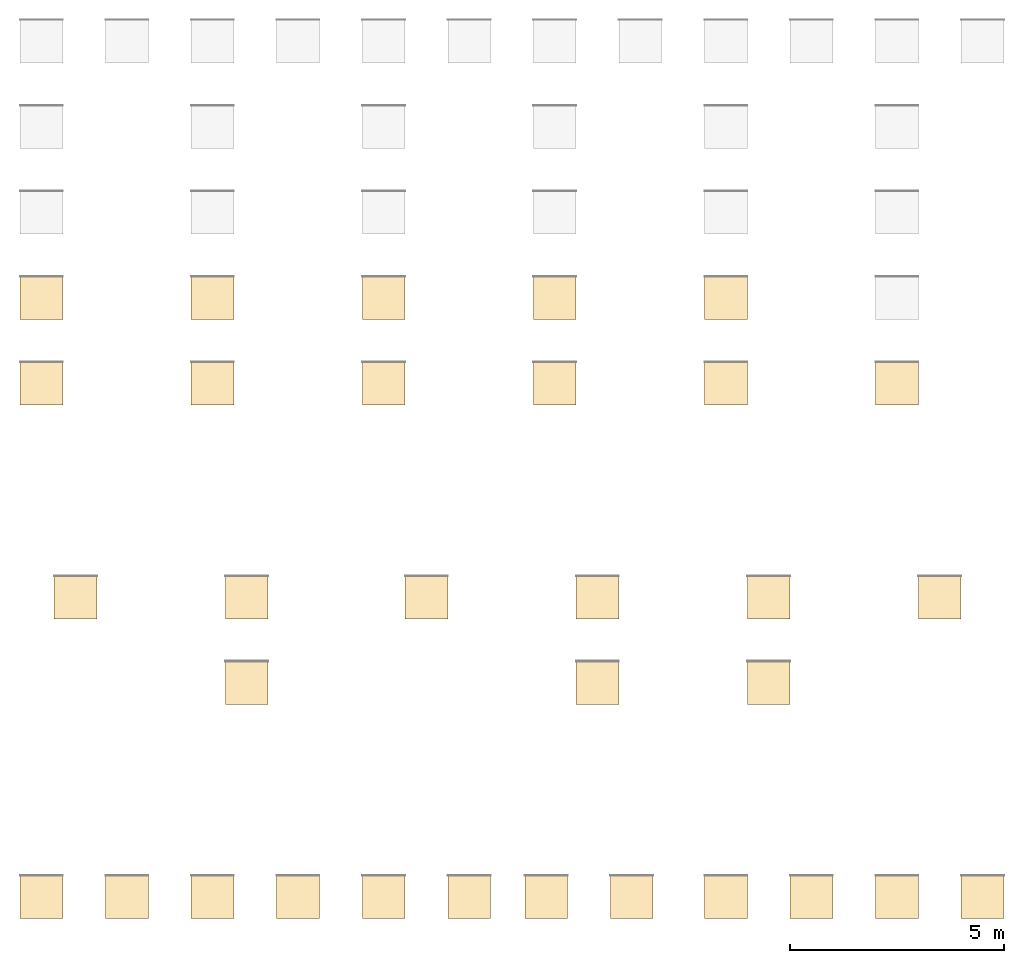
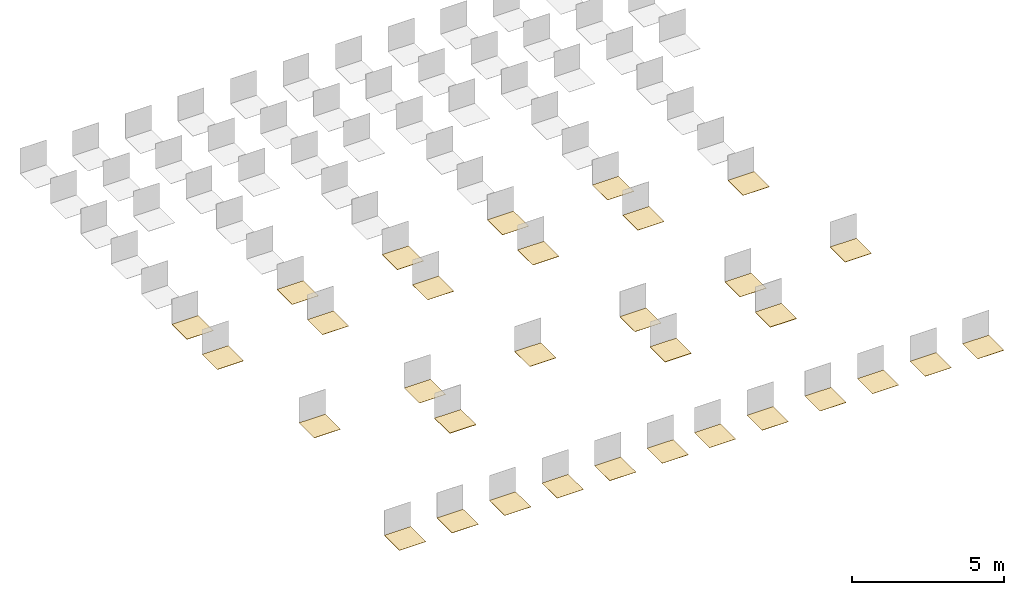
# One storey, part 4 of 6: 32 coverings.
"""IFC2X3 building model written with IfcOpenShell, lengths in millimetres."""

from ifc_helpers import new_model, entity, si_unit, converted_unit, derived_unit, direction, frame, frame_2d, origin, origin_2d_with_axis, place, context, subcontext, project, spatial, rectangle, extrude, material, layer, layer_set, layer_usage, type_object, element, save


model = new_model("IFC2X3")

# Units and contexts
model_context = context("Model", 3, precision=0.01, world=origin(), true_north=direction((6.12303176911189e-17, 1.0)))
body_context = subcontext(model_context, "Body", "Model", "MODEL_VIEW")
ifc_project = project(units=[si_unit("LENGTHUNIT", "METRE", prefix="MILLI"), si_unit("AREAUNIT", "SQUARE_METRE"), si_unit("VOLUMEUNIT", "CUBIC_METRE"), converted_unit("PLANEANGLEUNIT", "DEGREE", entity("IfcRatioMeasure", 0.0174532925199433), si_unit("PLANEANGLEUNIT", "RADIAN"), dimensions=[0, 0, 0, 0, 0, 0, 0]), si_unit("MASSUNIT", "GRAM", prefix="KILO"), derived_unit("MASSDENSITYUNIT", [(si_unit("MASSUNIT", "GRAM", prefix="KILO"), 1), (si_unit("LENGTHUNIT", "METRE"), -3)]), derived_unit("MOMENTOFINERTIAUNIT", [(si_unit("LENGTHUNIT", "METRE"), 4)]), si_unit("TIMEUNIT", "SECOND"), si_unit("FREQUENCYUNIT", "HERTZ"), si_unit("THERMODYNAMICTEMPERATUREUNIT", "DEGREE_CELSIUS"), derived_unit("THERMALTRANSMITTANCEUNIT", [(si_unit("MASSUNIT", "GRAM", prefix="KILO"), 1), (si_unit("THERMODYNAMICTEMPERATUREUNIT", "KELVIN"), -1), (si_unit("TIMEUNIT", "SECOND"), -3)]), derived_unit("VOLUMETRICFLOWRATEUNIT", [(si_unit("LENGTHUNIT", "METRE"), 3), (si_unit("TIMEUNIT", "SECOND"), -1)]), si_unit("ELECTRICCURRENTUNIT", "AMPERE"), si_unit("ELECTRICVOLTAGEUNIT", "VOLT"), si_unit("POWERUNIT", "WATT"), si_unit("FORCEUNIT", "NEWTON", prefix="KILO"), si_unit("ILLUMINANCEUNIT", "LUX"), si_unit("LUMINOUSFLUXUNIT", "LUMEN"), si_unit("LUMINOUSINTENSITYUNIT", "CANDELA"), derived_unit("USERDEFINED", [(si_unit("MASSUNIT", "GRAM", prefix="KILO"), -1), (si_unit("LENGTHUNIT", "METRE"), -2), (si_unit("TIMEUNIT", "SECOND"), 3), (si_unit("LUMINOUSFLUXUNIT", "LUMEN"), 1)]), derived_unit("LINEARVELOCITYUNIT", [(si_unit("LENGTHUNIT", "METRE"), 1), (si_unit("TIMEUNIT", "SECOND"), -1)]), si_unit("PRESSUREUNIT", "PASCAL"), derived_unit("USERDEFINED", [(si_unit("LENGTHUNIT", "METRE"), -2), (si_unit("MASSUNIT", "GRAM", prefix="KILO"), 1), (si_unit("TIMEUNIT", "SECOND"), -2)]), derived_unit("LINEARFORCEUNIT", [(si_unit("MASSUNIT", "GRAM", prefix="KILO"), 1), (si_unit("LENGTHUNIT", "METRE"), 1), (si_unit("TIMEUNIT", "SECOND"), -2), (si_unit("LENGTHUNIT", "METRE"), -1)]), derived_unit("PLANARFORCEUNIT", [(si_unit("MASSUNIT", "GRAM", prefix="KILO"), 1), (si_unit("LENGTHUNIT", "METRE"), 1), (si_unit("TIMEUNIT", "SECOND"), -2), (si_unit("LENGTHUNIT", "METRE"), -2)])], contexts=[model_context])

# Site, building, storey
site_placement = place(None, origin())
site = spatial("IfcSite", under=ifc_project, at=site_placement, Name="Default", CompositionType="ELEMENT")
building_placement = place(site_placement, origin())
building = spatial("IfcBuilding", under=site, at=building_placement, CompositionType="ELEMENT")
storey_placement = place(building_placement, origin())
storey = spatial("IfcBuildingStorey", under=building, at=storey_placement, Name="Level 1", CompositionType="ELEMENT", Elevation=0.0)

# Coverings
ifc_material_1 = material(Name="REVIGRÉS-URBAN-BASE-60X120-RECT-ANTRACITE")
ifc_layer_1 = layer(ifc_material_1, 9.8)
ifc_layer_set_1 = layer_set([ifc_layer_1], Name="Floor:REVIGRÉS-URBAN-BASE-59,2X118,6-RECT-ANTRACITE")
ifc_layer_usage_1 = layer_usage(ifc_layer_set_1, "AXIS3", "POSITIVE", 0.0)
covering_type_1 = type_object("IfcCoveringType", Name="Floor:REVIGRÉS-URBAN-BASE-59,2X118,6-RECT-ANTRACITE", PredefinedType="CLADDING", material=ifc_layer_set_1)
covering_1_placement = place(storey_placement, origin())
element("IfcCovering", 1, at=covering_1_placement, inside=storey, type_object=covering_type_1, material=ifc_layer_usage_1, Name="Floor:REVIGRÉS-URBAN-BASE-59,2X118,6-RECT-ANTRACITE", ObjectType="Floor:REVIGRÉS-URBAN-BASE-59,2X118,6-RECT-ANTRACITE", PredefinedType="CLADDING", context=body_context, shape_type="SweptSolid", body=[
    extrude(rectangle(XDim=1000.0, YDim=1000.0, at=frame_2d((1.08002495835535e-12, 0.0), x_axis=(1.0, 0.0))), frame((3278.64271399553, -11691.9242026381, 0.0), z_axis=(0.0, 0.0, -1.0), x_axis=(0.0, 1.0, 0.0)), (0.0, 0.0, 1.0), 9.8),
])
ifc_material_2 = material(Name="REVIGRÉS-URBAN-BASE-60X120-RECT-BONE")
ifc_layer_2 = layer(ifc_material_2, 9.8)
ifc_layer_set_2 = layer_set([ifc_layer_2], Name="Floor:REVIGRÉS-URBAN-BASE-59,2X118,6-RECT-BONE")
ifc_layer_usage_2 = layer_usage(ifc_layer_set_2, "AXIS3", "POSITIVE", 0.0)
covering_type_2 = type_object("IfcCoveringType", Name="Floor:REVIGRÉS-URBAN-BASE-59,2X118,6-RECT-BONE", PredefinedType="CLADDING", material=ifc_layer_set_2)
covering_2_placement = place(storey_placement, origin())
element("IfcCovering", 2, at=covering_2_placement, inside=storey, type_object=covering_type_2, material=ifc_layer_usage_2, Name="Floor:REVIGRÉS-URBAN-BASE-59,2X118,6-RECT-BONE", ObjectType="Floor:REVIGRÉS-URBAN-BASE-59,2X118,6-RECT-BONE", PredefinedType="CLADDING", context=body_context, shape_type="SweptSolid", body=[
    extrude(rectangle(XDim=1000.0, YDim=1000.0, at=frame_2d((1.08002495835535e-12, -1.08002495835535e-12), x_axis=(1.0, 0.0))), frame((7278.64271399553, -11691.9242026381, 0.0), z_axis=(0.0, 0.0, -1.0), x_axis=(0.0, 1.0, 0.0)), (0.0, 0.0, 1.0), 9.8),
])
ifc_material_3 = material(Name="REVIGRÉS-URBAN-BASE-60X120-RECT-CRAFT")
ifc_layer_3 = layer(ifc_material_3, 9.8)
ifc_layer_set_3 = layer_set([ifc_layer_3], Name="Floor:REVIGRÉS-URBAN-BASE-59,2X118,6-RECT-CRAFT")
ifc_layer_usage_3 = layer_usage(ifc_layer_set_3, "AXIS3", "POSITIVE", 0.0)
covering_type_3 = type_object("IfcCoveringType", Name="Floor:REVIGRÉS-URBAN-BASE-59,2X118,6-RECT-CRAFT", PredefinedType="CLADDING", material=ifc_layer_set_3)
covering_3_placement = place(storey_placement, origin())
element("IfcCovering", 3, at=covering_3_placement, inside=storey, type_object=covering_type_3, material=ifc_layer_usage_3, Name="Floor:REVIGRÉS-URBAN-BASE-59,2X118,6-RECT-CRAFT", ObjectType="Floor:REVIGRÉS-URBAN-BASE-59,2X118,6-RECT-CRAFT", PredefinedType="CLADDING", context=body_context, shape_type="SweptSolid", body=[
    extrude(rectangle(XDim=1000.0, YDim=999.999999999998, at=frame_2d((1.08002495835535e-12, 0.0), x_axis=(1.0, 0.0))), frame((11278.6427139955, -11691.9242026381, 0.0), z_axis=(0.0, 0.0, -1.0), x_axis=(0.0, 1.0, 0.0)), (0.0, 0.0, 1.0), 9.8),
])
ifc_material_4 = material(Name="REVIGRÉS-URBAN-BASE-60X120-RECT-FOG")
ifc_layer_4 = layer(ifc_material_4, 9.8)
ifc_layer_set_4 = layer_set([ifc_layer_4], Name="Floor:REVIGRÉS-URBAN-BASE-59,2X118,6-RECT-FOG")
ifc_layer_usage_4 = layer_usage(ifc_layer_set_4, "AXIS3", "POSITIVE", 0.0)
covering_type_4 = type_object("IfcCoveringType", Name="Floor:REVIGRÉS-URBAN-BASE-59,2X118,6-RECT-FOG", PredefinedType="CLADDING", material=ifc_layer_set_4)
covering_4_placement = place(storey_placement, origin())
element("IfcCovering", 4, at=covering_4_placement, inside=storey, type_object=covering_type_4, material=ifc_layer_usage_4, Name="Floor:REVIGRÉS-URBAN-BASE-59,2X118,6-RECT-FOG", ObjectType="Floor:REVIGRÉS-URBAN-BASE-59,2X118,6-RECT-FOG", PredefinedType="CLADDING", context=body_context, shape_type="SweptSolid", body=[
    extrude(rectangle(XDim=1000.0, YDim=1000.0, at=frame_2d((1.08002495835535e-12, -1.08002495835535e-12), x_axis=(1.0, 0.0))), frame((15278.6427139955, -11691.9242026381, 0.0), z_axis=(0.0, 0.0, -1.0), x_axis=(0.0, 1.0, 0.0)), (0.0, 0.0, 1.0), 9.8),
])
ifc_material_5 = material(Name="REVIGRÉS-URBAN-BASE-60X120-RECT-GRIS")
ifc_layer_5 = layer(ifc_material_5, 9.8)
ifc_layer_set_5 = layer_set([ifc_layer_5], Name="Floor:REVIGRÉS-URBAN-BASE-59,2X118,6-RECT-GRIS")
ifc_layer_usage_5 = layer_usage(ifc_layer_set_5, "AXIS3", "POSITIVE", 0.0)
covering_type_5 = type_object("IfcCoveringType", Name="Floor:REVIGRÉS-URBAN-BASE-59,2X118,6-RECT-GRIS", PredefinedType="CLADDING", material=ifc_layer_set_5)
covering_5_placement = place(storey_placement, origin())
element("IfcCovering", 5, at=covering_5_placement, inside=storey, type_object=covering_type_5, material=ifc_layer_usage_5, Name="Floor:REVIGRÉS-URBAN-BASE-59,2X118,6-RECT-GRIS", ObjectType="Floor:REVIGRÉS-URBAN-BASE-59,2X118,6-RECT-GRIS", PredefinedType="CLADDING", context=body_context, shape_type="SweptSolid", body=[
    extrude(rectangle(XDim=1000.0, YDim=1000.0, at=frame_2d((1.08002495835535e-12, -1.08002495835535e-12), x_axis=(1.0, 0.0))), frame((19278.6427139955, -11691.9242026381, 0.0), z_axis=(0.0, 0.0, -1.0), x_axis=(0.0, 1.0, 0.0)), (0.0, 0.0, 1.0), 9.8),
])
ifc_material_6 = material(Name="REVIGRÉS-URBAN-BASE-90X90-RECT-ANTRACITE")
ifc_layer_6 = layer(ifc_material_6, 10.5)
ifc_layer_set_6 = layer_set([ifc_layer_6], Name="Floor:REVIGRÉS-URBAN-BASE-88,9X88,9-RECT-ANTRACITE")
ifc_layer_usage_6 = layer_usage(ifc_layer_set_6, "AXIS3", "POSITIVE", 0.0)
covering_type_6 = type_object("IfcCoveringType", Name="Floor:REVIGRÉS-URBAN-BASE-88,9X88,9-RECT-ANTRACITE", PredefinedType="CLADDING", material=ifc_layer_set_6)
covering_6_placement = place(storey_placement, origin())
element("IfcCovering", 6, at=covering_6_placement, inside=storey, type_object=covering_type_6, material=ifc_layer_usage_6, Name="Floor:REVIGRÉS-URBAN-BASE-88,9X88,9-RECT-ANTRACITE", ObjectType="Floor:REVIGRÉS-URBAN-BASE-88,9X88,9-RECT-ANTRACITE", PredefinedType="CLADDING", context=body_context, shape_type="SweptSolid", body=[
    extrude(rectangle(XDim=1000.0, YDim=1000.0, at=frame_2d((1.08002495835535e-12, 0.0), x_axis=(1.0, 0.0))), frame((3278.64271399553, -13691.9242026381, 0.0), z_axis=(0.0, 0.0, -1.0), x_axis=(0.0, 1.0, 0.0)), (0.0, 0.0, 1.0), 10.5),
])
ifc_material_7 = material(Name="REVIGRÉS-URBAN-BASE-90X90-RECT-BONE")
ifc_layer_7 = layer(ifc_material_7, 10.5)
ifc_layer_set_7 = layer_set([ifc_layer_7], Name="Floor:REVIGRÉS-URBAN-BASE-88,9X88,9-RECT-BONE")
ifc_layer_usage_7 = layer_usage(ifc_layer_set_7, "AXIS3", "POSITIVE", 0.0)
covering_type_7 = type_object("IfcCoveringType", Name="Floor:REVIGRÉS-URBAN-BASE-88,9X88,9-RECT-BONE", PredefinedType="CLADDING", material=ifc_layer_set_7)
covering_7_placement = place(storey_placement, origin())
element("IfcCovering", 7, at=covering_7_placement, inside=storey, type_object=covering_type_7, material=ifc_layer_usage_7, Name="Floor:REVIGRÉS-URBAN-BASE-88,9X88,9-RECT-BONE", ObjectType="Floor:REVIGRÉS-URBAN-BASE-88,9X88,9-RECT-BONE", PredefinedType="CLADDING", context=body_context, shape_type="SweptSolid", body=[
    extrude(rectangle(XDim=1000.0, YDim=1000.0, at=frame_2d((1.08002495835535e-12, -1.08002495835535e-12), x_axis=(1.0, 0.0))), frame((7278.64271399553, -13691.9242026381, 0.0), z_axis=(0.0, 0.0, -1.0), x_axis=(0.0, 1.0, 0.0)), (0.0, 0.0, 1.0), 10.5),
])
ifc_material_8 = material(Name="REVIGRÉS-URBAN-BASE-90X90-RECT-CRAFT")
ifc_layer_8 = layer(ifc_material_8, 10.5)
ifc_layer_set_8 = layer_set([ifc_layer_8], Name="Floor:REVIGRÉS-URBAN-BASE-88,9X88,9-RECT-CRAFT")
ifc_layer_usage_8 = layer_usage(ifc_layer_set_8, "AXIS3", "POSITIVE", 0.0)
covering_type_8 = type_object("IfcCoveringType", Name="Floor:REVIGRÉS-URBAN-BASE-88,9X88,9-RECT-CRAFT", PredefinedType="CLADDING", material=ifc_layer_set_8)
covering_8_placement = place(storey_placement, origin())
element("IfcCovering", 8, at=covering_8_placement, inside=storey, type_object=covering_type_8, material=ifc_layer_usage_8, Name="Floor:REVIGRÉS-URBAN-BASE-88,9X88,9-RECT-CRAFT", ObjectType="Floor:REVIGRÉS-URBAN-BASE-88,9X88,9-RECT-CRAFT", PredefinedType="CLADDING", context=body_context, shape_type="SweptSolid", body=[
    extrude(rectangle(XDim=1000.0, YDim=999.999999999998, at=frame_2d((1.08002495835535e-12, 0.0), x_axis=(1.0, 0.0))), frame((11278.6427139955, -13691.9242026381, 0.0), z_axis=(0.0, 0.0, -1.0), x_axis=(0.0, 1.0, 0.0)), (0.0, 0.0, 1.0), 10.5),
])
ifc_material_9 = material(Name="REVIGRÉS-URBAN-BASE-90X90-RECT-FOG")
ifc_layer_9 = layer(ifc_material_9, 10.5)
ifc_layer_set_9 = layer_set([ifc_layer_9], Name="Floor:REVIGRÉS-URBAN-BASE-88,9X88,9-RECT-FOG")
ifc_layer_usage_9 = layer_usage(ifc_layer_set_9, "AXIS3", "POSITIVE", 0.0)
covering_type_9 = type_object("IfcCoveringType", Name="Floor:REVIGRÉS-URBAN-BASE-88,9X88,9-RECT-FOG", PredefinedType="CLADDING", material=ifc_layer_set_9)
covering_9_placement = place(storey_placement, origin())
element("IfcCovering", 9, at=covering_9_placement, inside=storey, type_object=covering_type_9, material=ifc_layer_usage_9, Name="Floor:REVIGRÉS-URBAN-BASE-88,9X88,9-RECT-FOG", ObjectType="Floor:REVIGRÉS-URBAN-BASE-88,9X88,9-RECT-FOG", PredefinedType="CLADDING", context=body_context, shape_type="SweptSolid", body=[
    extrude(rectangle(XDim=1000.0, YDim=1000.0, at=frame_2d((1.08002495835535e-12, -1.08002495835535e-12), x_axis=(1.0, 0.0))), frame((15278.6427139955, -13691.9242026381, 0.0), z_axis=(0.0, 0.0, -1.0), x_axis=(0.0, 1.0, 0.0)), (0.0, 0.0, 1.0), 10.5),
])
ifc_material_10 = material(Name="REVIGRÉS-URBAN-BASE-90X90-RECT-GRIS")
ifc_layer_10 = layer(ifc_material_10, 10.5)
ifc_layer_set_10 = layer_set([ifc_layer_10], Name="Floor:REVIGRÉS-URBAN-BASE-88,9X88,9-RECT-GRIS")
ifc_layer_usage_10 = layer_usage(ifc_layer_set_10, "AXIS3", "POSITIVE", 0.0)
covering_type_10 = type_object("IfcCoveringType", Name="Floor:REVIGRÉS-URBAN-BASE-88,9X88,9-RECT-GRIS", PredefinedType="CLADDING", material=ifc_layer_set_10)
covering_10_placement = place(storey_placement, origin())
element("IfcCovering", 10, at=covering_10_placement, inside=storey, type_object=covering_type_10, material=ifc_layer_usage_10, Name="Floor:REVIGRÉS-URBAN-BASE-88,9X88,9-RECT-GRIS", ObjectType="Floor:REVIGRÉS-URBAN-BASE-88,9X88,9-RECT-GRIS", PredefinedType="CLADDING", context=body_context, shape_type="SweptSolid", body=[
    extrude(rectangle(XDim=1000.0, YDim=1000.0, at=frame_2d((1.08002495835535e-12, -1.08002495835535e-12), x_axis=(1.0, 0.0))), frame((19278.6427139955, -13691.9242026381, 0.0), z_axis=(0.0, 0.0, -1.0), x_axis=(0.0, 1.0, 0.0)), (0.0, 0.0, 1.0), 10.5),
])
ifc_material_11 = material(Name="REVIGRÉS-URBAN-BASE-90X90-RECT-OFFWHITE")
ifc_layer_11 = layer(ifc_material_11, 10.5)
ifc_layer_set_11 = layer_set([ifc_layer_11], Name="Floor:REVIGRÉS-URBAN-BASE-88,9X88,9-RECT-OFFWHITE")
ifc_layer_usage_11 = layer_usage(ifc_layer_set_11, "AXIS3", "POSITIVE", 0.0)
covering_type_11 = type_object("IfcCoveringType", Name="Floor:REVIGRÉS-URBAN-BASE-88,9X88,9-RECT-OFFWHITE", PredefinedType="CLADDING", material=ifc_layer_set_11)
covering_11_placement = place(storey_placement, origin())
element("IfcCovering", 11, at=covering_11_placement, inside=storey, type_object=covering_type_11, material=ifc_layer_usage_11, Name="Floor:REVIGRÉS-URBAN-BASE-88,9X88,9-RECT-OFFWHITE", ObjectType="Floor:REVIGRÉS-URBAN-BASE-88,9X88,9-RECT-OFFWHITE", PredefinedType="CLADDING", context=body_context, shape_type="SweptSolid", body=[
    extrude(rectangle(XDim=1000.0, YDim=1000.0, at=frame_2d((1.08002495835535e-12, 2.1600499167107e-12), x_axis=(1.0, 0.0))), frame((23278.6427139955, -13691.9242026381, 0.0), z_axis=(0.0, 0.0, -1.0), x_axis=(0.0, 1.0, 0.0)), (0.0, 0.0, 1.0), 10.5),
])
ifc_material_12 = material(Name="REVIGRÉS-URBAN-BASE-60X60-RECT-ANTISLIP ANTRACITE")
ifc_layer_12 = layer(ifc_material_12, 10.5)
ifc_layer_set_12 = layer_set([ifc_layer_12], Name="Floor:REVIGRÉS-URBAN-BASE-59,2X59,2-RECT-ANTISLIP ANTRACITE")
ifc_layer_usage_12 = layer_usage(ifc_layer_set_12, "AXIS3", "POSITIVE", 0.0)
covering_type_12 = type_object("IfcCoveringType", Name="Floor:REVIGRÉS-URBAN-BASE-59,2X59,2-RECT-ANTISLIP ANTRACITE", PredefinedType="CLADDING", material=ifc_layer_set_12)
covering_12_placement = place(storey_placement, origin())
element("IfcCovering", 12, at=covering_12_placement, inside=storey, type_object=covering_type_12, material=ifc_layer_usage_12, Name="Floor:REVIGRÉS-URBAN-BASE-59,2X59,2-RECT-ANTISLIP ANTRACITE", ObjectType="Floor:REVIGRÉS-URBAN-BASE-59,2X59,2-RECT-ANTISLIP ANTRACITE", PredefinedType="CLADDING", context=body_context, shape_type="SweptSolid", body=[
    extrude(rectangle(XDim=1000.0, YDim=1000.0, at=frame_2d((1.08002495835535e-12, 0.0), x_axis=(1.0, 0.0))), frame((4078.64271399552, -18691.9242026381, 0.0), z_axis=(0.0, 0.0, -1.0), x_axis=(0.0, 1.0, 0.0)), (0.0, 0.0, 1.0), 10.5),
])
ifc_material_13 = material(Name="REVIGRÉS-URBAN-BASE-60X60-RECT-ANTISLIP BONE")
ifc_layer_13 = layer(ifc_material_13, 10.5)
ifc_layer_set_13 = layer_set([ifc_layer_13], Name="Floor:REVIGRÉS-URBAN-BASE-59,2X59,2-RECT-ANTISLIP BONE")
ifc_layer_usage_13 = layer_usage(ifc_layer_set_13, "AXIS3", "POSITIVE", 0.0)
covering_type_13 = type_object("IfcCoveringType", Name="Floor:REVIGRÉS-URBAN-BASE-59,2X59,2-RECT-ANTISLIP BONE", PredefinedType="CLADDING", material=ifc_layer_set_13)
covering_13_placement = place(storey_placement, origin())
element("IfcCovering", 13, at=covering_13_placement, inside=storey, type_object=covering_type_13, material=ifc_layer_usage_13, Name="Floor:REVIGRÉS-URBAN-BASE-59,2X59,2-RECT-ANTISLIP BONE", ObjectType="Floor:REVIGRÉS-URBAN-BASE-59,2X59,2-RECT-ANTISLIP BONE", PredefinedType="CLADDING", context=body_context, shape_type="SweptSolid", body=[
    extrude(rectangle(XDim=1000.0, YDim=1000.0, at=frame_2d((1.08002495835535e-12, 1.08002495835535e-12), x_axis=(1.0, 0.0))), frame((8078.39550555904, -18691.9242026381, 0.0), z_axis=(0.0, 0.0, -1.0), x_axis=(0.0, 1.0, 0.0)), (0.0, 0.0, 1.0), 10.5),
])
ifc_material_14 = material(Name="REVIGRÉS-URBAN-BASE-60X60-RECT-ANTISLIP CRAFT")
ifc_layer_14 = layer(ifc_material_14, 10.5)
ifc_layer_set_14 = layer_set([ifc_layer_14], Name="Floor:REVIGRÉS-URBAN-BASE-59,2X59,2-RECT-ANTISLIP CRAFT")
ifc_layer_usage_14 = layer_usage(ifc_layer_set_14, "AXIS3", "POSITIVE", 0.0)
covering_type_14 = type_object("IfcCoveringType", Name="Floor:REVIGRÉS-URBAN-BASE-59,2X59,2-RECT-ANTISLIP CRAFT", PredefinedType="CLADDING", material=ifc_layer_set_14)
covering_14_placement = place(storey_placement, origin())
element("IfcCovering", 14, at=covering_14_placement, inside=storey, type_object=covering_type_14, material=ifc_layer_usage_14, Name="Floor:REVIGRÉS-URBAN-BASE-59,2X59,2-RECT-ANTISLIP CRAFT", ObjectType="Floor:REVIGRÉS-URBAN-BASE-59,2X59,2-RECT-ANTISLIP CRAFT", PredefinedType="CLADDING", context=body_context, shape_type="SweptSolid", body=[
    extrude(rectangle(XDim=1000.0, YDim=999.999999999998, at=frame_2d((1.08002495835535e-12, 0.0), x_axis=(1.0, 0.0))), frame((12278.6427139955, -18691.9242026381, 0.0), z_axis=(0.0, 0.0, -1.0), x_axis=(0.0, 1.0, 0.0)), (0.0, 0.0, 1.0), 10.5),
])
ifc_material_15 = material(Name="REVIGRÉS-URBAN-BASE-60X60-RECT-ANTISLIP FOG")
ifc_layer_15 = layer(ifc_material_15, 10.5)
ifc_layer_set_15 = layer_set([ifc_layer_15], Name="Floor:REVIGRÉS-URBAN-BASE-59,2X59,2-RECT-ANTISLIP FOG")
ifc_layer_usage_15 = layer_usage(ifc_layer_set_15, "AXIS3", "POSITIVE", 0.0)
covering_type_15 = type_object("IfcCoveringType", Name="Floor:REVIGRÉS-URBAN-BASE-59,2X59,2-RECT-ANTISLIP FOG", PredefinedType="CLADDING", material=ifc_layer_set_15)
covering_15_placement = place(storey_placement, origin())
element("IfcCovering", 15, at=covering_15_placement, inside=storey, type_object=covering_type_15, material=ifc_layer_usage_15, Name="Floor:REVIGRÉS-URBAN-BASE-59,2X59,2-RECT-ANTISLIP FOG", ObjectType="Floor:REVIGRÉS-URBAN-BASE-59,2X59,2-RECT-ANTISLIP FOG", PredefinedType="CLADDING", context=body_context, shape_type="SweptSolid", body=[
    extrude(rectangle(XDim=1000.0, YDim=1000.0, at=frame_2d((1.08002495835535e-12, -1.08002495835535e-12), x_axis=(1.0, 0.0))), frame((16278.6427139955, -18691.9242026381, 0.0), z_axis=(0.0, 0.0, -1.0), x_axis=(0.0, 1.0, 0.0)), (0.0, 0.0, 1.0), 10.5),
])
ifc_material_16 = material(Name="REVIGRÉS-URBAN-BASE-60X60-RECT-ANTISLIP GRIS")
ifc_layer_16 = layer(ifc_material_16, 10.5)
ifc_layer_set_16 = layer_set([ifc_layer_16], Name="Floor:REVIGRÉS-URBAN-BASE-59,2X59,2-RECT-ANTISLIP GRIS")
ifc_layer_usage_16 = layer_usage(ifc_layer_set_16, "AXIS3", "POSITIVE", 0.0)
covering_type_16 = type_object("IfcCoveringType", Name="Floor:REVIGRÉS-URBAN-BASE-59,2X59,2-RECT-ANTISLIP GRIS", PredefinedType="CLADDING", material=ifc_layer_set_16)
covering_16_placement = place(storey_placement, origin())
element("IfcCovering", 16, at=covering_16_placement, inside=storey, type_object=covering_type_16, material=ifc_layer_usage_16, Name="Floor:REVIGRÉS-URBAN-BASE-59,2X59,2-RECT-ANTISLIP GRIS", ObjectType="Floor:REVIGRÉS-URBAN-BASE-59,2X59,2-RECT-ANTISLIP GRIS", PredefinedType="CLADDING", context=body_context, shape_type="SweptSolid", body=[
    extrude(rectangle(XDim=1000.0, YDim=1000.0, at=frame_2d((-1.08002495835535e-12, -2.1600499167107e-12), x_axis=(1.0, 0.0))), frame((20278.6427139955, -18691.9242026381, 0.0), z_axis=(0.0, 0.0, -1.0), x_axis=(0.0, 1.0, 0.0)), (0.0, 0.0, 1.0), 10.5),
])
ifc_material_17 = material(Name="REVIGRÉS-URBAN-BASE-60X60-RECT-ANTISLIP OFFWHITE")
ifc_layer_17 = layer(ifc_material_17, 10.5)
ifc_layer_set_17 = layer_set([ifc_layer_17], Name="Floor:REVIGRÉS-URBAN-BASE-59,2X59,2-RECT-ANTISLIP OFFWHITE")
ifc_layer_usage_17 = layer_usage(ifc_layer_set_17, "AXIS3", "POSITIVE", 0.0)
covering_type_17 = type_object("IfcCoveringType", Name="Floor:REVIGRÉS-URBAN-BASE-59,2X59,2-RECT-ANTISLIP OFFWHITE", PredefinedType="CLADDING", material=ifc_layer_set_17)
covering_17_placement = place(storey_placement, origin())
element("IfcCovering", 17, at=covering_17_placement, inside=storey, type_object=covering_type_17, material=ifc_layer_usage_17, Name="Floor:REVIGRÉS-URBAN-BASE-59,2X59,2-RECT-ANTISLIP OFFWHITE", ObjectType="Floor:REVIGRÉS-URBAN-BASE-59,2X59,2-RECT-ANTISLIP OFFWHITE", PredefinedType="CLADDING", context=body_context, shape_type="SweptSolid", body=[
    extrude(rectangle(XDim=1000.0, YDim=1000.0, at=frame_2d((1.08002495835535e-12, -2.1600499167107e-12), x_axis=(1.0, 0.0))), frame((24278.6427139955, -18691.9242026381, 0.0), z_axis=(0.0, 0.0, -1.0), x_axis=(0.0, 1.0, 0.0)), (0.0, 0.0, 1.0), 10.5),
])
ifc_material_18 = material(Name="REVIGRÉS-URBAN-BASE-45X45-RECT-HYDRAULIK ANTRACITE")
ifc_layer_18 = layer(ifc_material_18, 8.5)
ifc_layer_set_18 = layer_set([ifc_layer_18], Name="Floor:REVIGRÉS-URBAN-BASE-44,35X44,35-RECT HYDRAULIK ANTRACITE")
ifc_layer_usage_18 = layer_usage(ifc_layer_set_18, "AXIS3", "POSITIVE", 0.0)
covering_type_18 = type_object("IfcCoveringType", Name="Floor:REVIGRÉS-URBAN-BASE-44,35X44,35-RECT HYDRAULIK ANTRACITE", PredefinedType="CLADDING", material=ifc_layer_set_18)
covering_18_placement = place(storey_placement, origin())
element("IfcCovering", 18, at=covering_18_placement, inside=storey, type_object=covering_type_18, material=ifc_layer_usage_18, Name="Floor:REVIGRÉS-URBAN-BASE-44,35X44,35-RECT HYDRAULIK ANTRACITE", ObjectType="Floor:REVIGRÉS-URBAN-BASE-44,35X44,35-RECT HYDRAULIK ANTRACITE", PredefinedType="CLADDING", context=body_context, shape_type="SweptSolid", body=[
    extrude(rectangle(XDim=1000.0, YDim=1000.0, at=frame_2d((2.1600499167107e-12, 0.0), x_axis=(1.0, 0.0))), frame((3278.64271399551, -25691.9242026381, 0.0), z_axis=(0.0, 0.0, -1.0), x_axis=(0.0, 1.0, 0.0)), (0.0, 0.0, 1.0), 8.5),
])
ifc_material_19 = material(Name="REVIGRÉS-URBAN-BASE-45X45-NAT-HYDRAULIK ANTRACITE")
ifc_layer_19 = layer(ifc_material_19, 8.5)
ifc_layer_set_19 = layer_set([ifc_layer_19], Name="Floor:REVIGRÉS-URBAN-BASE-45X45-NAT HYDRAULIK ANTRACITE")
ifc_layer_usage_19 = layer_usage(ifc_layer_set_19, "AXIS3", "POSITIVE", 0.0)
covering_type_19 = type_object("IfcCoveringType", Name="Floor:REVIGRÉS-URBAN-BASE-45X45-NAT HYDRAULIK ANTRACITE", PredefinedType="CLADDING", material=ifc_layer_set_19)
covering_19_placement = place(storey_placement, origin())
element("IfcCovering", 19, at=covering_19_placement, inside=storey, type_object=covering_type_19, material=ifc_layer_usage_19, Name="Floor:REVIGRÉS-URBAN-BASE-45X45-NAT HYDRAULIK ANTRACITE", ObjectType="Floor:REVIGRÉS-URBAN-BASE-45X45-NAT HYDRAULIK ANTRACITE", PredefinedType="CLADDING", context=body_context, shape_type="SweptSolid", body=[
    extrude(rectangle(XDim=999.999999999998, YDim=999.999999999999, at=frame_2d((0.0, -5.40012479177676e-13), x_axis=(1.0, 0.0))), frame((5278.64271399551, -25691.9242026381, 0.0), z_axis=(0.0, 0.0, -1.0), x_axis=(0.0, 1.0, 0.0)), (0.0, 0.0, 1.0), 8.5),
])
ifc_material_20 = material(Name="REVIGRÉS-URBAN-BASE-45X45-RECT-HYDRAULIK BONE")
ifc_layer_20 = layer(ifc_material_20, 8.5)
ifc_layer_set_20 = layer_set([ifc_layer_20], Name="Floor:REVIGRÉS-URBAN-BASE-44,35X44,35-RECT HYDRAULIK BONE")
ifc_layer_usage_20 = layer_usage(ifc_layer_set_20, "AXIS3", "POSITIVE", 0.0)
covering_type_20 = type_object("IfcCoveringType", Name="Floor:REVIGRÉS-URBAN-BASE-44,35X44,35-RECT HYDRAULIK BONE", PredefinedType="CLADDING", material=ifc_layer_set_20)
covering_20_placement = place(storey_placement, origin())
element("IfcCovering", 20, at=covering_20_placement, inside=storey, type_object=covering_type_20, material=ifc_layer_usage_20, Name="Floor:REVIGRÉS-URBAN-BASE-44,35X44,35-RECT HYDRAULIK BONE", ObjectType="Floor:REVIGRÉS-URBAN-BASE-44,35X44,35-RECT HYDRAULIK BONE", PredefinedType="CLADDING", context=body_context, shape_type="SweptSolid", body=[
    extrude(rectangle(XDim=1000.0, YDim=999.999999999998, at=frame_2d((2.1600499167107e-12, 0.0), x_axis=(1.0, 0.0))), frame((7278.64271399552, -25691.9242026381, 0.0), z_axis=(0.0, 0.0, -1.0), x_axis=(0.0, 1.0, 0.0)), (0.0, 0.0, 1.0), 8.5),
])
ifc_material_21 = material(Name="REVIGRÉS-URBAN-BASE-45X45-NAT-HYDRAULIK BONE")
ifc_layer_21 = layer(ifc_material_21, 8.5)
ifc_layer_set_21 = layer_set([ifc_layer_21], Name="Floor:REVIGRÉS-URBAN-BASE-45X45-NAT HYDRAULIK BONE")
ifc_layer_usage_21 = layer_usage(ifc_layer_set_21, "AXIS3", "POSITIVE", 0.0)
covering_type_21 = type_object("IfcCoveringType", Name="Floor:REVIGRÉS-URBAN-BASE-45X45-NAT HYDRAULIK BONE", PredefinedType="CLADDING", material=ifc_layer_set_21)
covering_21_placement = place(storey_placement, origin())
element("IfcCovering", 21, at=covering_21_placement, inside=storey, type_object=covering_type_21, material=ifc_layer_usage_21, Name="Floor:REVIGRÉS-URBAN-BASE-45X45-NAT HYDRAULIK BONE", ObjectType="Floor:REVIGRÉS-URBAN-BASE-45X45-NAT HYDRAULIK BONE", PredefinedType="CLADDING", context=body_context, shape_type="SweptSolid", body=[
    extrude(rectangle(XDim=999.999999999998, YDim=1000.0, at=origin_2d_with_axis()), frame((9278.64271399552, -25691.9242026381, 0.0), z_axis=(0.0, 0.0, -1.0), x_axis=(0.0, 1.0, 0.0)), (0.0, 0.0, 1.0), 8.5),
])
ifc_material_22 = material(Name="REVIGRÉS-URBAN-BASE-45X45-RECT-HYDRAULIK CRAFT")
ifc_layer_22 = layer(ifc_material_22, 8.5)
ifc_layer_set_22 = layer_set([ifc_layer_22], Name="Floor:REVIGRÉS-URBAN-BASE-44,35X44,35-RECT HYDRAULIK CRAFT")
ifc_layer_usage_22 = layer_usage(ifc_layer_set_22, "AXIS3", "POSITIVE", 0.0)
covering_type_22 = type_object("IfcCoveringType", Name="Floor:REVIGRÉS-URBAN-BASE-44,35X44,35-RECT HYDRAULIK CRAFT", PredefinedType="CLADDING", material=ifc_layer_set_22)
covering_22_placement = place(storey_placement, origin())
element("IfcCovering", 22, at=covering_22_placement, inside=storey, type_object=covering_type_22, material=ifc_layer_usage_22, Name="Floor:REVIGRÉS-URBAN-BASE-44,35X44,35-RECT HYDRAULIK CRAFT", ObjectType="Floor:REVIGRÉS-URBAN-BASE-44,35X44,35-RECT HYDRAULIK CRAFT", PredefinedType="CLADDING", context=body_context, shape_type="SweptSolid", body=[
    extrude(rectangle(XDim=1000.0, YDim=999.999999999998, at=frame_2d((2.1600499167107e-12, 0.0), x_axis=(1.0, 0.0))), frame((11278.6427139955, -25691.9242026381, 0.0), z_axis=(0.0, 0.0, -1.0), x_axis=(0.0, 1.0, 0.0)), (0.0, 0.0, 1.0), 8.5),
])
ifc_material_23 = material(Name="REVIGRÉS-URBAN-BASE-45X45-NAT-HYDRAULIK CRAFT")
ifc_layer_23 = layer(ifc_material_23, 8.5)
ifc_layer_set_23 = layer_set([ifc_layer_23], Name="Floor:REVIGRÉS-URBAN-BASE-45X45-NAT HYDRAULIK CRAFT")
ifc_layer_usage_23 = layer_usage(ifc_layer_set_23, "AXIS3", "POSITIVE", 0.0)
covering_type_23 = type_object("IfcCoveringType", Name="Floor:REVIGRÉS-URBAN-BASE-45X45-NAT HYDRAULIK CRAFT", PredefinedType="CLADDING", material=ifc_layer_set_23)
covering_23_placement = place(storey_placement, origin())
element("IfcCovering", 23, at=covering_23_placement, inside=storey, type_object=covering_type_23, material=ifc_layer_usage_23, Name="Floor:REVIGRÉS-URBAN-BASE-45X45-NAT HYDRAULIK CRAFT", ObjectType="Floor:REVIGRÉS-URBAN-BASE-45X45-NAT HYDRAULIK CRAFT", PredefinedType="CLADDING", context=body_context, shape_type="SweptSolid", body=[
    extrude(rectangle(XDim=999.999999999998, YDim=1000.0, at=frame_2d((0.0, -2.1600499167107e-12), x_axis=(1.0, 0.0))), frame((13278.6427139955, -25691.9242026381, 0.0), z_axis=(0.0, 0.0, -1.0), x_axis=(0.0, 1.0, 0.0)), (0.0, 0.0, 1.0), 8.5),
])
ifc_material_24 = material(Name="REVIGRÉS-URBAN-BASE-45X45-RECT-HYDRAULIK FOG")
ifc_layer_24 = layer(ifc_material_24, 8.5)
ifc_layer_set_24 = layer_set([ifc_layer_24], Name="Floor:REVIGRÉS-URBAN-BASE-44,35X44,35-RECT HYDRAULIK FOG")
ifc_layer_usage_24 = layer_usage(ifc_layer_set_24, "AXIS3", "POSITIVE", 0.0)
covering_type_24 = type_object("IfcCoveringType", Name="Floor:REVIGRÉS-URBAN-BASE-44,35X44,35-RECT HYDRAULIK FOG", PredefinedType="CLADDING", material=ifc_layer_set_24)
covering_24_placement = place(storey_placement, origin())
element("IfcCovering", 24, at=covering_24_placement, inside=storey, type_object=covering_type_24, material=ifc_layer_usage_24, Name="Floor:REVIGRÉS-URBAN-BASE-44,35X44,35-RECT HYDRAULIK FOG", ObjectType="Floor:REVIGRÉS-URBAN-BASE-44,35X44,35-RECT HYDRAULIK FOG", PredefinedType="CLADDING", context=body_context, shape_type="SweptSolid", body=[
    extrude(rectangle(XDim=1000.0, YDim=999.999999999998, at=frame_2d((2.1600499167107e-12, 0.0), x_axis=(1.0, 0.0))), frame((15078.6427139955, -25691.9242026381, 0.0), z_axis=(0.0, 0.0, -1.0), x_axis=(0.0, 1.0, 0.0)), (0.0, 0.0, 1.0), 8.5),
])
ifc_material_25 = material(Name="REVIGRÉS-URBAN-BASE-45X45-NAT-HYDRAULIK FOG")
ifc_layer_25 = layer(ifc_material_25, 8.5)
ifc_layer_set_25 = layer_set([ifc_layer_25], Name="Floor:REVIGRÉS-URBAN-BASE-45X45-NAT HYDRAULIK FOG")
ifc_layer_usage_25 = layer_usage(ifc_layer_set_25, "AXIS3", "POSITIVE", 0.0)
covering_type_25 = type_object("IfcCoveringType", Name="Floor:REVIGRÉS-URBAN-BASE-45X45-NAT HYDRAULIK FOG", PredefinedType="CLADDING", material=ifc_layer_set_25)
covering_25_placement = place(storey_placement, origin())
element("IfcCovering", 25, at=covering_25_placement, inside=storey, type_object=covering_type_25, material=ifc_layer_usage_25, Name="Floor:REVIGRÉS-URBAN-BASE-45X45-NAT HYDRAULIK FOG", ObjectType="Floor:REVIGRÉS-URBAN-BASE-45X45-NAT HYDRAULIK FOG", PredefinedType="CLADDING", context=body_context, shape_type="SweptSolid", body=[
    extrude(rectangle(XDim=999.999999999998, YDim=1000.0, at=frame_2d((0.0, -1.08002495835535e-12), x_axis=(1.0, 0.0))), frame((17078.6427139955, -25691.9242026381, 0.0), z_axis=(0.0, 0.0, -1.0), x_axis=(0.0, 1.0, 0.0)), (0.0, 0.0, 1.0), 8.5),
])
ifc_material_26 = material(Name="REVIGRÉS-URBAN-BASE-45X45-RECT-HYDRAULIK GRIS")
ifc_layer_26 = layer(ifc_material_26, 8.5)
ifc_layer_set_26 = layer_set([ifc_layer_26], Name="Floor:REVIGRÉS-URBAN-BASE-44,35X44,35-RECT HYDRAULIK GRIS")
ifc_layer_usage_26 = layer_usage(ifc_layer_set_26, "AXIS3", "POSITIVE", 0.0)
covering_type_26 = type_object("IfcCoveringType", Name="Floor:REVIGRÉS-URBAN-BASE-44,35X44,35-RECT HYDRAULIK GRIS", PredefinedType="CLADDING", material=ifc_layer_set_26)
covering_26_placement = place(storey_placement, origin())
element("IfcCovering", 26, at=covering_26_placement, inside=storey, type_object=covering_type_26, material=ifc_layer_usage_26, Name="Floor:REVIGRÉS-URBAN-BASE-44,35X44,35-RECT HYDRAULIK GRIS", ObjectType="Floor:REVIGRÉS-URBAN-BASE-44,35X44,35-RECT HYDRAULIK GRIS", PredefinedType="CLADDING", context=body_context, shape_type="SweptSolid", body=[
    extrude(rectangle(XDim=1000.0, YDim=999.999999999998, at=frame_2d((2.1600499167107e-12, 0.0), x_axis=(1.0, 0.0))), frame((19278.6427139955, -25691.9242026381, 0.0), z_axis=(0.0, 0.0, -1.0), x_axis=(0.0, 1.0, 0.0)), (0.0, 0.0, 1.0), 8.5),
])
ifc_material_27 = material(Name="REVIGRÉS-URBAN-BASE-45X45-NAT-HYDRAULIK GRIS")
ifc_layer_27 = layer(ifc_material_27, 8.5)
ifc_layer_set_27 = layer_set([ifc_layer_27], Name="Floor:REVIGRÉS-URBAN-BASE-45X45-NAT HYDRAULIK GRIS")
ifc_layer_usage_27 = layer_usage(ifc_layer_set_27, "AXIS3", "POSITIVE", 0.0)
covering_type_27 = type_object("IfcCoveringType", Name="Floor:REVIGRÉS-URBAN-BASE-45X45-NAT HYDRAULIK GRIS", PredefinedType="CLADDING", material=ifc_layer_set_27)
covering_27_placement = place(storey_placement, origin())
element("IfcCovering", 27, at=covering_27_placement, inside=storey, type_object=covering_type_27, material=ifc_layer_usage_27, Name="Floor:REVIGRÉS-URBAN-BASE-45X45-NAT HYDRAULIK GRIS", ObjectType="Floor:REVIGRÉS-URBAN-BASE-45X45-NAT HYDRAULIK GRIS", PredefinedType="CLADDING", context=body_context, shape_type="SweptSolid", body=[
    extrude(rectangle(XDim=999.999999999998, YDim=1000.00000000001, at=origin_2d_with_axis()), frame((21278.6427139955, -25691.9242026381, 0.0), z_axis=(0.0, 0.0, -1.0), x_axis=(0.0, 1.0, 0.0)), (0.0, 0.0, 1.0), 8.5),
])
ifc_material_28 = material(Name="REVIGRÉS-URBAN-BASE-45X45-RECT-HYDRAULIK OFFWHITE")
ifc_layer_28 = layer(ifc_material_28, 8.5)
ifc_layer_set_28 = layer_set([ifc_layer_28], Name="Floor:REVIGRÉS-URBAN-BASE-44,35X44,35-RECT HYDRAULIK OFFWHITE")
ifc_layer_usage_28 = layer_usage(ifc_layer_set_28, "AXIS3", "POSITIVE", 0.0)
covering_type_28 = type_object("IfcCoveringType", Name="Floor:REVIGRÉS-URBAN-BASE-44,35X44,35-RECT HYDRAULIK OFFWHITE", PredefinedType="CLADDING", material=ifc_layer_set_28)
covering_28_placement = place(storey_placement, origin())
element("IfcCovering", 28, at=covering_28_placement, inside=storey, type_object=covering_type_28, material=ifc_layer_usage_28, Name="Floor:REVIGRÉS-URBAN-BASE-44,35X44,35-RECT HYDRAULIK OFFWHITE", ObjectType="Floor:REVIGRÉS-URBAN-BASE-44,35X44,35-RECT HYDRAULIK OFFWHITE", PredefinedType="CLADDING", context=body_context, shape_type="SweptSolid", body=[
    extrude(rectangle(XDim=1000.0, YDim=999.999999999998, at=frame_2d((2.1600499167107e-12, 0.0), x_axis=(1.0, 0.0))), frame((23278.6427139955, -25691.9242026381, 0.0), z_axis=(0.0, 0.0, -1.0), x_axis=(0.0, 1.0, 0.0)), (0.0, 0.0, 1.0), 8.5),
])
ifc_material_29 = material(Name="REVIGRÉS-URBAN-BASE-45X45-NAT-HYDRAULIK OFFWHITE")
ifc_layer_29 = layer(ifc_material_29, 8.5)
ifc_layer_set_29 = layer_set([ifc_layer_29], Name="Floor:REVIGRÉS-URBAN-BASE-45X45-NAT HYDRAULIK OFFWHITE")
ifc_layer_usage_29 = layer_usage(ifc_layer_set_29, "AXIS3", "POSITIVE", 0.0)
covering_type_29 = type_object("IfcCoveringType", Name="Floor:REVIGRÉS-URBAN-BASE-45X45-NAT HYDRAULIK OFFWHITE", PredefinedType="CLADDING", material=ifc_layer_set_29)
covering_29_placement = place(storey_placement, origin())
element("IfcCovering", 29, at=covering_29_placement, inside=storey, type_object=covering_type_29, material=ifc_layer_usage_29, Name="Floor:REVIGRÉS-URBAN-BASE-45X45-NAT HYDRAULIK OFFWHITE", ObjectType="Floor:REVIGRÉS-URBAN-BASE-45X45-NAT HYDRAULIK OFFWHITE", PredefinedType="CLADDING", context=body_context, shape_type="SweptSolid", body=[
    extrude(rectangle(XDim=999.999999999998, YDim=1000.0, at=frame_2d((0.0, -2.1600499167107e-12), x_axis=(1.0, 0.0))), frame((25278.6427139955, -25691.9242026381, 0.0), z_axis=(0.0, 0.0, -1.0), x_axis=(0.0, 1.0, 0.0)), (0.0, 0.0, 1.0), 8.5),
])
ifc_material_30 = material(Name="REVIGRÉS-URBAN-BASE-60X60X2-RECT-ANTISLIP BONE")
ifc_layer_30 = layer(ifc_material_30, 20.0)
ifc_layer_set_30 = layer_set([ifc_layer_30], Name="Floor:REVIGRÉS-URBAN-BASE-59,8X59,8X2-RECT-ANTISLIP BONE")
ifc_layer_usage_30 = layer_usage(ifc_layer_set_30, "AXIS3", "POSITIVE", 0.0)
covering_type_30 = type_object("IfcCoveringType", Name="Floor:REVIGRÉS-URBAN-BASE-59,8X59,8X2-RECT-ANTISLIP BONE", PredefinedType="CLADDING", material=ifc_layer_set_30)
covering_30_placement = place(storey_placement, origin())
element("IfcCovering", 30, at=covering_30_placement, inside=storey, type_object=covering_type_30, material=ifc_layer_usage_30, Name="Floor:REVIGRÉS-URBAN-BASE-59,8X59,8X2-RECT-ANTISLIP BONE", ObjectType="Floor:REVIGRÉS-URBAN-BASE-59,8X59,8X2-RECT-ANTISLIP BONE", PredefinedType="CLADDING", context=body_context, shape_type="SweptSolid", body=[
    extrude(rectangle(XDim=1000.0, YDim=1000.0, at=frame_2d((-2.1600499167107e-12, 0.0), x_axis=(1.0, 0.0))), frame((8078.39550555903, -20691.9242026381, 0.0), z_axis=(0.0, 0.0, -1.0), x_axis=(0.0, 1.0, 0.0)), (0.0, 0.0, 1.0), 20.0),
])
ifc_material_31 = material(Name="REVIGRÉS-URBAN-BASE-60X60X2-RECT-ANTISLIP FOG")
ifc_layer_31 = layer(ifc_material_31, 20.0)
ifc_layer_set_31 = layer_set([ifc_layer_31], Name="Floor:REVIGRÉS-URBAN-BASE-59,8X59,8X2-RECT-ANTISLIP FOG")
ifc_layer_usage_31 = layer_usage(ifc_layer_set_31, "AXIS3", "POSITIVE", 0.0)
covering_type_31 = type_object("IfcCoveringType", Name="Floor:REVIGRÉS-URBAN-BASE-59,8X59,8X2-RECT-ANTISLIP FOG", PredefinedType="CLADDING", material=ifc_layer_set_31)
covering_31_placement = place(storey_placement, origin())
element("IfcCovering", 31, at=covering_31_placement, inside=storey, type_object=covering_type_31, material=ifc_layer_usage_31, Name="Floor:REVIGRÉS-URBAN-BASE-59,8X59,8X2-RECT-ANTISLIP FOG", ObjectType="Floor:REVIGRÉS-URBAN-BASE-59,8X59,8X2-RECT-ANTISLIP FOG", PredefinedType="CLADDING", context=body_context, shape_type="SweptSolid", body=[
    extrude(rectangle(XDim=999.999999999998, YDim=1000.0, at=frame_2d((0.0, -1.08002495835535e-12), x_axis=(1.0, 0.0))), frame((16278.6427139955, -20691.9242026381, 0.0), z_axis=(0.0, 0.0, -1.0), x_axis=(0.0, 1.0, 0.0)), (0.0, 0.0, 1.0), 20.0),
])
ifc_material_32 = material(Name="REVIGRÉS-URBAN-BASE-60X60X2-RECT-ANTISLIP GRIS")
ifc_layer_32 = layer(ifc_material_32, 20.0)
ifc_layer_set_32 = layer_set([ifc_layer_32], Name="Floor:REVIGRÉS-URBAN-BASE-59,8X59,8X2-RECT-ANTISLIP GRIS")
ifc_layer_usage_32 = layer_usage(ifc_layer_set_32, "AXIS3", "POSITIVE", 0.0)
covering_type_32 = type_object("IfcCoveringType", Name="Floor:REVIGRÉS-URBAN-BASE-59,8X59,8X2-RECT-ANTISLIP GRIS", PredefinedType="CLADDING", material=ifc_layer_set_32)
covering_32_placement = place(storey_placement, origin())
element("IfcCovering", 32, at=covering_32_placement, inside=storey, type_object=covering_type_32, material=ifc_layer_usage_32, Name="Floor:REVIGRÉS-URBAN-BASE-59,8X59,8X2-RECT-ANTISLIP GRIS", ObjectType="Floor:REVIGRÉS-URBAN-BASE-59,8X59,8X2-RECT-ANTISLIP GRIS", PredefinedType="CLADDING", context=body_context, shape_type="SweptSolid", body=[
    extrude(rectangle(XDim=999.999999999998, YDim=1000.00000000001, at=origin_2d_with_axis()), frame((20278.6427139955, -20691.9242026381, 0.0), z_axis=(0.0, 0.0, -1.0), x_axis=(0.0, 1.0, 0.0)), (0.0, 0.0, 1.0), 20.0),
])

save(model, "model.ifc")
